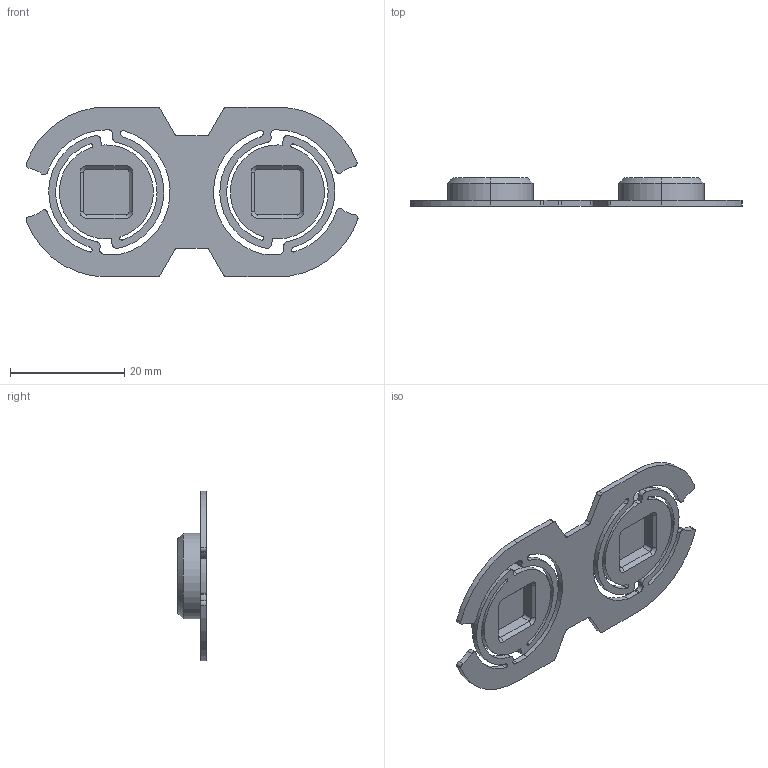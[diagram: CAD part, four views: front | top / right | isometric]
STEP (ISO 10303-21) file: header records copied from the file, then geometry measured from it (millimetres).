
FILE_DESCRIPTION (( 'STEP AP214' ), '1' );
FILE_NAME ('Dual_Spring_Button.STEP', '2025-02-14T20:40:52', ( '' ), ( '' ), 'SwSTEP 2.0', 'SolidWorks 2019', '' );
FILE_SCHEMA (( 'AUTOMOTIVE_DESIGN' ));
Length unit declared in the file: millimetre
Products named in the file (1): Dual_Spring_Button
Bounding box: 58.23 x 5 x 29.8 mm (x, y, z)
Volume: 2222.9 mm3; surface area: 3617.9 mm2
Topology: 1 solids, 1 shells, 188 faces, 499 edges, 320 vertices
Faces by surface type: cylinder 105, plane 59, cone 24
Entity records: 5935 total; most frequent: DIRECTION 1111, CARTESIAN_POINT 1008, ORIENTED_EDGE 998, EDGE_CURVE 499, AXIS2_PLACEMENT_3D 423, VERTEX_POINT 320, LINE 265, VECTOR 265
